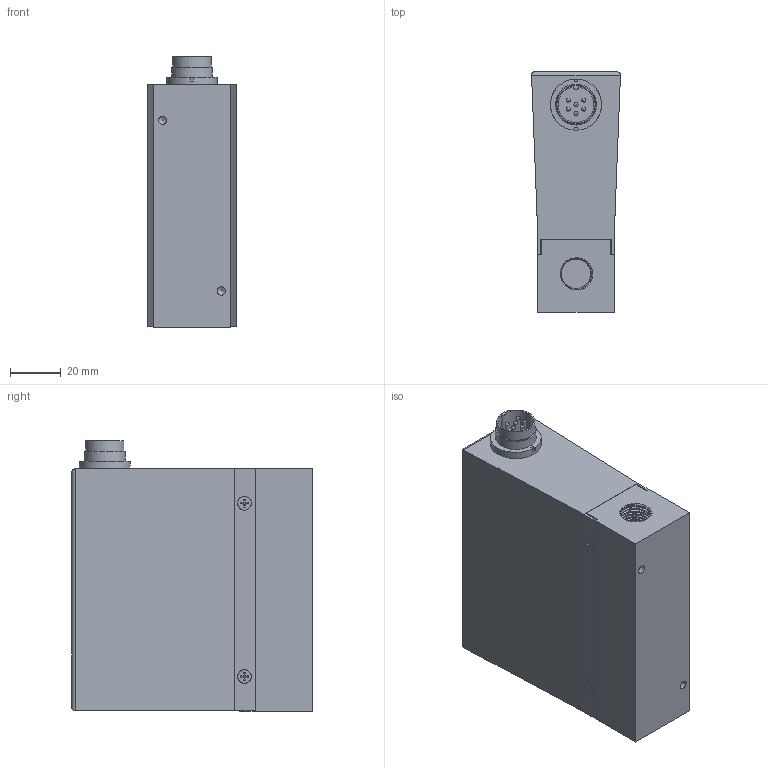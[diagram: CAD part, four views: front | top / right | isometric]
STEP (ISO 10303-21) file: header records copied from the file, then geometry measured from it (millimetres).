
FILE_DESCRIPTION(/* description */ (''),/* implementation_level */ '2;1');
FILE_NAME(/* name */ 'U:/AirCom-Produktdokumentation/Volumenstromregelung/PVM/Zeichnungen/CAD-Aircom/3D/B-PVM11-14.step',/* time_stamp */ '2019-10-07T11:42:53+02:00',/* author */ (''),/* organization */ (''),/* preprocessor_version */ 'ST-DEVELOPER v18',/* originating_system */ 'Autodesk Translation Framework v8.6.0.1094',/* authorisation */ '');
FILE_SCHEMA (('AUTOMOTIVE_DESIGN { 1 0 10303 214 3 1 1 }'));
Length unit declared in the file: millimetre
Products named in the file (1): (Nicht gespeichert)
Bounding box: 34.88 x 94.4 x 106.1 mm (x, y, z)
Volume: 103701.2 mm3; surface area: 57739.5 mm2
Topology: 7 solids, 7 shells, 260 faces, 682 edges, 454 vertices
Faces by surface type: plane 124, cylinder 54, cone 47, torus 17, bspline 12, sphere 6
Full cylindrical faces by diameter (mm): 1.1 x6, 1.6 x6, 3.242 x2, 13.157 x12, 13.5 x1, 14.5 x1, 15 x1, 16 x2, 18 x1, 20 x2
Entity records: 15991 total; most frequent: CARTESIAN_POINT 9359, ORIENTED_EDGE 1348, DIRECTION 1299, EDGE_CURVE 674, AXIS2_PLACEMENT_3D 474, VERTEX_POINT 454, LINE 351, VECTOR 351
